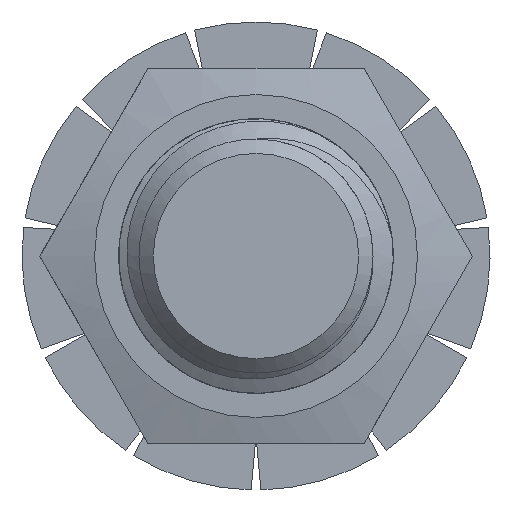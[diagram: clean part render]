
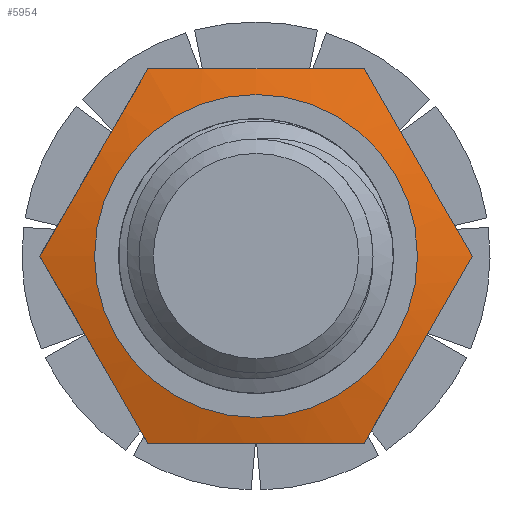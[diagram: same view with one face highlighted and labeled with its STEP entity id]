
A CAD part, left-side view. The second image highlights one B-rep face of the part: STEP entity #5954.
In plain terms, the highlighted conical face has half-angle 75 degrees and reference radius 4.626 mm.
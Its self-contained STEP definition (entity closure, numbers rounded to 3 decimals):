
#347 = CARTESIAN_POINT ( 'NONE',  ( -10.123, 1.54, -4. ) ) ;
#539 = CARTESIAN_POINT ( 'NONE',  ( -10.02, 4.619, 0. ) ) ;
#855 = FACE_OUTER_BOUND ( 'NONE', #6415, .T. ) ;
#897 = VERTEX_POINT ( 'NONE', #1814 ) ;
#1025 = CIRCLE ( 'NONE', #6804, 3.45 ) ;
#1038 = ORIENTED_EDGE ( 'NONE', *, *, #6398, .T. ) ;
#1091 = ORIENTED_EDGE ( 'NONE', *, *, #7204, .T. ) ;
#1181 = VERTEX_POINT ( 'NONE', #5605 ) ;
#1252 = DIRECTION ( 'NONE',  ( 0., 0., 1. ) ) ;
#1284 = CONICAL_SURFACE ( 'NONE', #3748, 4.626, 1.309 ) ;
#1814 = CARTESIAN_POINT ( 'NONE',  ( -10.02, -2.309, -4. ) ) ;
#1897 = CARTESIAN_POINT ( 'NONE',  ( -10.249, -3.464, -2. ) ) ;
#2005 = CARTESIAN_POINT ( 'NONE',  ( -10.249, 0., 4. ) ) ;
#2329 = CARTESIAN_POINT ( 'NONE',  ( -10.249, 0., -4. ) ) ;
#2400 = CARTESIAN_POINT ( 'NONE',  ( -10.123, 4.234, -0.667 ) ) ;
#2485 = CARTESIAN_POINT ( 'NONE',  ( -10.123, 2.694, 3.333 ) ) ;
#2605 = CARTESIAN_POINT ( 'NONE',  ( -10.123, 4.234, 0.667 ) ) ;
#2692 = EDGE_LOOP ( 'NONE', ( #9230 ) ) ;
#2948 = CARTESIAN_POINT ( 'NONE',  ( -10.123, -4.234, -0.667 ) ) ;
#3162 = CARTESIAN_POINT ( 'NONE',  ( -10.249, -3.464, 2. ) ) ;
#3399 = CARTESIAN_POINT ( 'NONE',  ( -10.123, 2.694, -3.333 ) ) ;
#3748 = AXIS2_PLACEMENT_3D ( 'NONE', #8525, #9444, #4571 ) ;
#3899 = CARTESIAN_POINT ( 'NONE',  ( -10.02, -2.309, -4. ) ) ;
#3920 = VERTEX_POINT ( 'NONE', #6596 ) ;
#3939 = EDGE_CURVE ( 'NONE', #1181, #7017, #9763, .T. ) ;
#3993 = ORIENTED_EDGE ( 'NONE', *, *, #6139, .T. ) ;
#4182 = CARTESIAN_POINT ( 'NONE',  ( -10.02, 4.619, 0. ) ) ;
#4477 = CARTESIAN_POINT ( 'NONE',  ( -10.333, 0., 3.45 ) ) ;
#4571 = DIRECTION ( 'NONE',  ( 0., 0., 1. ) ) ;
#4856 = CARTESIAN_POINT ( 'NONE',  ( -10.02, -4.619, 0. ) ) ;
#5035 = CARTESIAN_POINT ( 'NONE',  ( -10.123, -4.234, 0.667 ) ) ;
#5441 = FACE_BOUND ( 'NONE', #2692, .T. ) ;
#5605 = CARTESIAN_POINT ( 'NONE',  ( -10.02, -2.309, 4. ) ) ;
#5688 = CARTESIAN_POINT ( 'NONE',  ( -10.02, 2.309, -4. ) ) ;
#5930 = VERTEX_POINT ( 'NONE', #5688 ) ;
#5954 = ADVANCED_FACE ( 'NONE', ( #855, #5441 ), #1284, .T. ) ;
#6013 = CARTESIAN_POINT ( 'NONE',  ( -10.02, -4.619, 0. ) ) ;
#6139 = EDGE_CURVE ( 'NONE', #897, #3920, #6219, .T. ) ;
#6205 = CARTESIAN_POINT ( 'NONE',  ( -10.249, 3.464, -2. ) ) ;
#6219 = B_SPLINE_CURVE_WITH_KNOTS ( 'NONE', 3,
 ( #3899, #11418, #1897, #2948, #4856 ),
 .UNSPECIFIED., .F., .F.,
 ( 4, 1, 4 ),
 ( 0., 0.002, 0.005 ),
 .UNSPECIFIED. ) ;
#6276 = ORIENTED_EDGE ( 'NONE', *, *, #6920, .T. ) ;
#6398 = EDGE_CURVE ( 'NONE', #12054, #5930, #8029, .T. ) ;
#6415 = EDGE_LOOP ( 'NONE', ( #1038, #11918, #3993, #1091, #7750, #6276 ) ) ;
#6517 = CARTESIAN_POINT ( 'NONE',  ( -10.02, 2.309, 4. ) ) ;
#6596 = CARTESIAN_POINT ( 'NONE',  ( -10.02, -4.619, 0. ) ) ;
#6804 = AXIS2_PLACEMENT_3D ( 'NONE', #7909, #8813, #1252 ) ;
#6920 = EDGE_CURVE ( 'NONE', #7017, #12054, #8978, .T. ) ;
#6952 = CARTESIAN_POINT ( 'NONE',  ( -10.02, -2.309, -4. ) ) ;
#6989 = B_SPLINE_CURVE_WITH_KNOTS ( 'NONE', 3,
 ( #11626, #347, #2329, #11715, #6952 ),
 .UNSPECIFIED., .F., .F.,
 ( 4, 1, 4 ),
 ( 0., 0.002, 0.005 ),
 .UNSPECIFIED. ) ;
#7017 = VERTEX_POINT ( 'NONE', #6517 ) ;
#7204 = EDGE_CURVE ( 'NONE', #3920, #1181, #11749, .T. ) ;
#7559 = CARTESIAN_POINT ( 'NONE',  ( -10.02, 2.309, 4. ) ) ;
#7750 = ORIENTED_EDGE ( 'NONE', *, *, #3939, .T. ) ;
#7909 = CARTESIAN_POINT ( 'NONE',  ( -10.333, 0., 0. ) ) ;
#8029 = B_SPLINE_CURVE_WITH_KNOTS ( 'NONE', 3,
 ( #4182, #2400, #6205, #3399, #10798 ),
 .UNSPECIFIED., .F., .F.,
 ( 4, 1, 4 ),
 ( 0., 0.002, 0.005 ),
 .UNSPECIFIED. ) ;
#8219 = CARTESIAN_POINT ( 'NONE',  ( -10.02, 2.309, 4. ) ) ;
#8525 = CARTESIAN_POINT ( 'NONE',  ( -10.018, 0., 0. ) ) ;
#8627 = CARTESIAN_POINT ( 'NONE',  ( -10.123, 1.54, 4. ) ) ;
#8813 = DIRECTION ( 'NONE',  ( 1., 0., 0. ) ) ;
#8978 = B_SPLINE_CURVE_WITH_KNOTS ( 'NONE', 3,
 ( #8219, #2485, #12036, #2605, #539 ),
 .UNSPECIFIED., .F., .F.,
 ( 4, 1, 4 ),
 ( 0., 0.002, 0.005 ),
 .UNSPECIFIED. ) ;
#9177 = EDGE_CURVE ( 'NONE', #10475, #10475, #1025, .T. ) ;
#9230 = ORIENTED_EDGE ( 'NONE', *, *, #9177, .T. ) ;
#9444 = DIRECTION ( 'NONE',  ( 1., 0., 0. ) ) ;
#9539 = EDGE_CURVE ( 'NONE', #5930, #897, #6989, .T. ) ;
#9763 = B_SPLINE_CURVE_WITH_KNOTS ( 'NONE', 3,
 ( #11282, #10495, #2005, #8627, #7559 ),
 .UNSPECIFIED., .F., .F.,
 ( 4, 1, 4 ),
 ( 0., 0.002, 0.005 ),
 .UNSPECIFIED. ) ;
#9815 = CARTESIAN_POINT ( 'NONE',  ( -10.123, -2.694, 3.333 ) ) ;
#10475 = VERTEX_POINT ( 'NONE', #4477 ) ;
#10495 = CARTESIAN_POINT ( 'NONE',  ( -10.123, -1.54, 4. ) ) ;
#10784 = CARTESIAN_POINT ( 'NONE',  ( -10.02, -2.309, 4. ) ) ;
#10798 = CARTESIAN_POINT ( 'NONE',  ( -10.02, 2.309, -4. ) ) ;
#11282 = CARTESIAN_POINT ( 'NONE',  ( -10.02, -2.309, 4. ) ) ;
#11418 = CARTESIAN_POINT ( 'NONE',  ( -10.123, -2.694, -3.333 ) ) ;
#11573 = CARTESIAN_POINT ( 'NONE',  ( -10.02, 4.619, 0. ) ) ;
#11626 = CARTESIAN_POINT ( 'NONE',  ( -10.02, 2.309, -4. ) ) ;
#11715 = CARTESIAN_POINT ( 'NONE',  ( -10.123, -1.54, -4. ) ) ;
#11749 = B_SPLINE_CURVE_WITH_KNOTS ( 'NONE', 3,
 ( #6013, #5035, #3162, #9815, #10784 ),
 .UNSPECIFIED., .F., .F.,
 ( 4, 1, 4 ),
 ( 0., 0.002, 0.005 ),
 .UNSPECIFIED. ) ;
#11918 = ORIENTED_EDGE ( 'NONE', *, *, #9539, .T. ) ;
#12036 = CARTESIAN_POINT ( 'NONE',  ( -10.249, 3.464, 2. ) ) ;
#12054 = VERTEX_POINT ( 'NONE', #11573 ) ;
